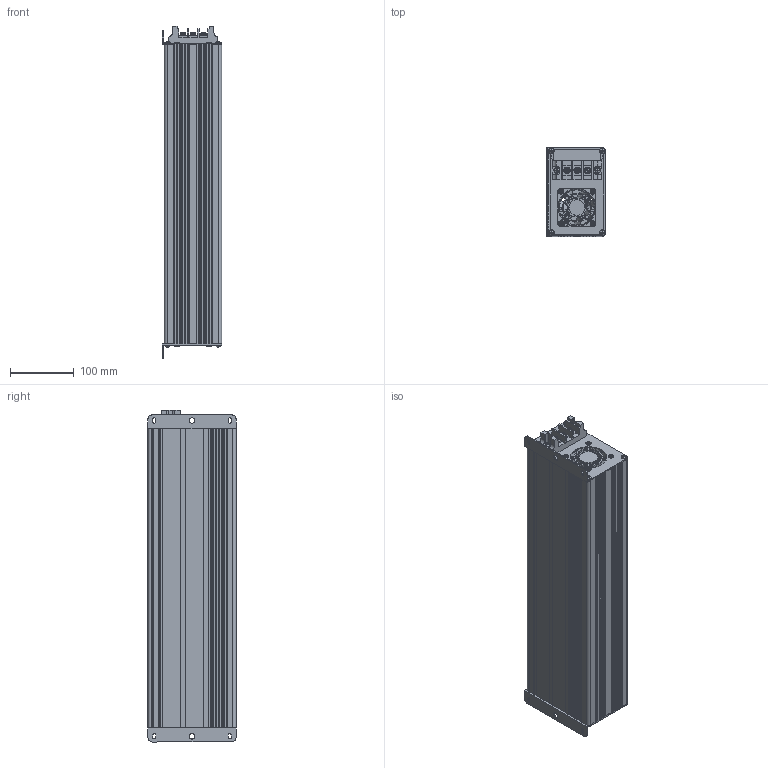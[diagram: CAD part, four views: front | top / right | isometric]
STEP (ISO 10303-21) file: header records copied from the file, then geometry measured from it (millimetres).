
FILE_DESCRIPTION(/* description */ (''),/* implementation_level */ '2;1');
FILE_NAME(/* name */ 'H:\04_배터리_전기종\고부하용 배터리 케이스_3D\CH 고객도면\CH470.stp',/* time_stamp */ '2024-06-05T16:31:02+09:00',/* author */ ('jjang'),/* organization */ (''),/* preprocessor_version */ 'ST-DEVELOPER v18.1',/* originating_system */ 'Autodesk Inventor 2021',/* authorisation */ '');
FILE_SCHEMA (('AUTOMOTIVE_DESIGN { 1 0 10303 214 3 1 1 }'));
Products named in the file (1): CH470_Shrinkwrap_1
Bounding box: 93 x 139 x 521.5 mm (x, y, z)
Volume: 734110.9 mm3; surface area: 581799 mm2
Topology: 1 solids, 1 shells, 1686 faces, 4664 edges, 3012 vertices
Faces by surface type: plane 835, cylinder 574, bspline 174, torus 71, cone 18, sphere 14
Full cylindrical faces by diameter (mm): 0.9 x4, 3.8 x8, 4.3 x8, 4.5 x8, 4.8 x8, 5 x10, 5.5 x6, 6 x3, 8.4 x8, 8.584 x3, 8.6 x3, 8.8 x8, 9 x2, 9.2 x2, 10 x2, 25.4 x2, 55.4 x2
Entity records: 67251 total; most frequent: CARTESIAN_POINT 23531, ORIENTED_EDGE 9308, DIRECTION 8793, EDGE_CURVE 4654, AXIS2_PLACEMENT_3D 3192, VERTEX_POINT 3012, LINE 2409, VECTOR 2409
